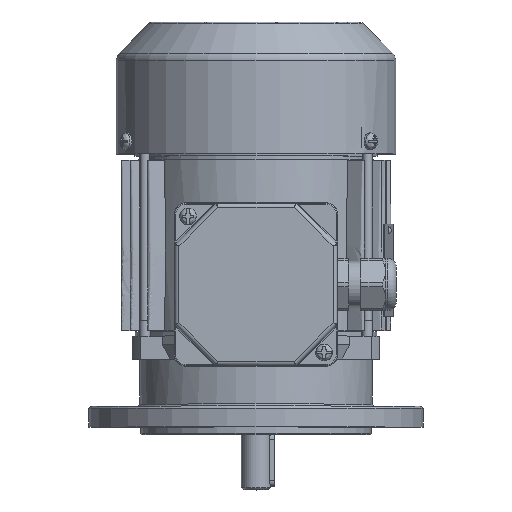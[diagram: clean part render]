
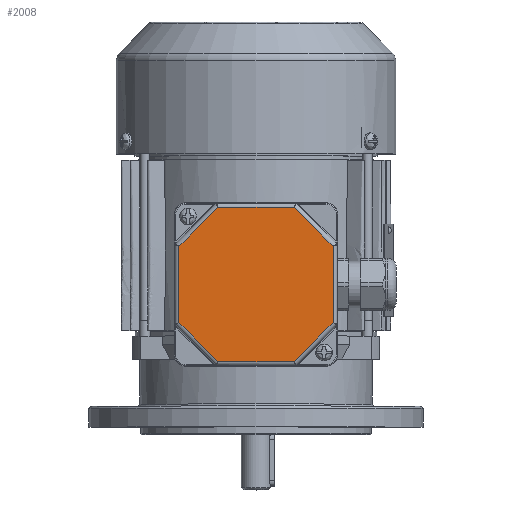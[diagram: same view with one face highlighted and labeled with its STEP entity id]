
A CAD part, top view. The second image highlights one B-rep face of the part: STEP entity #2008.
In plain terms, the highlighted planar face has unit normal (0, 0, 1).
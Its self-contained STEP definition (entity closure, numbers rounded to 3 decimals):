
#2008 = ADVANCED_FACE( '', ( #4349 ), #4350, .T. );
#4349 = FACE_OUTER_BOUND( '', #9173, .T. );
#4350 = PLANE( '', #9174 );
#9173 = EDGE_LOOP( '', ( #21030, #21031, #21032, #21033, #21034, #21035, #21036, #21037 ) );
#9174 = AXIS2_PLACEMENT_3D( '', #21038, #21039, #21040 );
#21030 = ORIENTED_EDGE( '', *, *, #30302, .T. );
#21031 = ORIENTED_EDGE( '', *, *, #30303, .T. );
#21032 = ORIENTED_EDGE( '', *, *, #30304, .T. );
#21033 = ORIENTED_EDGE( '', *, *, #30305, .T. );
#21034 = ORIENTED_EDGE( '', *, *, #30306, .T. );
#21035 = ORIENTED_EDGE( '', *, *, #30307, .T. );
#21036 = ORIENTED_EDGE( '', *, *, #30308, .T. );
#21037 = ORIENTED_EDGE( '', *, *, #30309, .T. );
#21038 = CARTESIAN_POINT( '', ( -39., 39., 12. ) );
#21039 = DIRECTION( '', ( 0., 0., 1. ) );
#21040 = DIRECTION( '', ( 1., 0., 0. ) );
#30302 = EDGE_CURVE( '', #39963, #38329, #39964, .F. );
#30303 = EDGE_CURVE( '', #38329, #39965, #39966, .T. );
#30304 = EDGE_CURVE( '', #39965, #39967, #39968, .F. );
#30305 = EDGE_CURVE( '', #39967, #39969, #39970, .T. );
#30306 = EDGE_CURVE( '', #39969, #39971, #39972, .F. );
#30307 = EDGE_CURVE( '', #39971, #39973, #39974, .T. );
#30308 = EDGE_CURVE( '', #39973, #38480, #39975, .F. );
#30309 = EDGE_CURVE( '', #38480, #39963, #39976, .T. );
#38329 = VERTEX_POINT( '', #45071 );
#38480 = VERTEX_POINT( '', #45436 );
#39963 = VERTEX_POINT( '', #48497 );
#39964 = LINE( '', #48498, #48499 );
#39965 = VERTEX_POINT( '', #48500 );
#39966 = LINE( '', #48501, #48502 );
#39967 = VERTEX_POINT( '', #48503 );
#39968 = LINE( '', #48504, #48505 );
#39969 = VERTEX_POINT( '', #48506 );
#39970 = LINE( '', #48507, #48508 );
#39971 = VERTEX_POINT( '', #48509 );
#39972 = LINE( '', #48510, #48511 );
#39973 = VERTEX_POINT( '', #48512 );
#39974 = LINE( '', #48513, #48514 );
#39975 = LINE( '', #48515, #48516 );
#39976 = LINE( '', #48517, #48518 );
#45071 = CARTESIAN_POINT( '', ( 36.825, 18.255, 12. ) );
#45436 = CARTESIAN_POINT( '', ( 18.255, -36.825, 12. ) );
#48497 = CARTESIAN_POINT( '', ( 36.825, -18.255, 12. ) );
#48498 = CARTESIAN_POINT( '', ( 36.825, 19.069, 12. ) );
#48499 = VECTOR( '', #60452, 1000. );
#48500 = CARTESIAN_POINT( '', ( 18.255, 36.825, 12. ) );
#48501 = CARTESIAN_POINT( '', ( 17.679, 37.401, 12. ) );
#48502 = VECTOR( '', #60453, 1000. );
#48503 = CARTESIAN_POINT( '', ( -18.255, 36.825, 12. ) );
#48504 = CARTESIAN_POINT( '', ( -19.069, 36.825, 12. ) );
#48505 = VECTOR( '', #60454, 1000. );
#48506 = CARTESIAN_POINT( '', ( -36.825, 18.255, 12. ) );
#48507 = CARTESIAN_POINT( '', ( -37.401, 17.679, 12. ) );
#48508 = VECTOR( '', #60455, 1000. );
#48509 = CARTESIAN_POINT( '', ( -36.825, -18.255, 12. ) );
#48510 = CARTESIAN_POINT( '', ( -36.825, -19.069, 12. ) );
#48511 = VECTOR( '', #60456, 1000. );
#48512 = CARTESIAN_POINT( '', ( -18.255, -36.825, 12. ) );
#48513 = CARTESIAN_POINT( '', ( -17.679, -37.401, 12. ) );
#48514 = VECTOR( '', #60457, 1000. );
#48515 = CARTESIAN_POINT( '', ( 19.069, -36.825, 12. ) );
#48516 = VECTOR( '', #60458, 1000. );
#48517 = CARTESIAN_POINT( '', ( 37.401, -17.679, 12. ) );
#48518 = VECTOR( '', #60459, 1000. );
#60452 = DIRECTION( '', ( 0., -1., 0. ) );
#60453 = DIRECTION( '', ( -0.707, 0.707, 0. ) );
#60454 = DIRECTION( '', ( 1., 0., 0. ) );
#60455 = DIRECTION( '', ( -0.707, -0.707, 0. ) );
#60456 = DIRECTION( '', ( 0., 1., 0. ) );
#60457 = DIRECTION( '', ( 0.707, -0.707, 0. ) );
#60458 = DIRECTION( '', ( -1., 0., 0. ) );
#60459 = DIRECTION( '', ( 0.707, 0.707, 0. ) );
